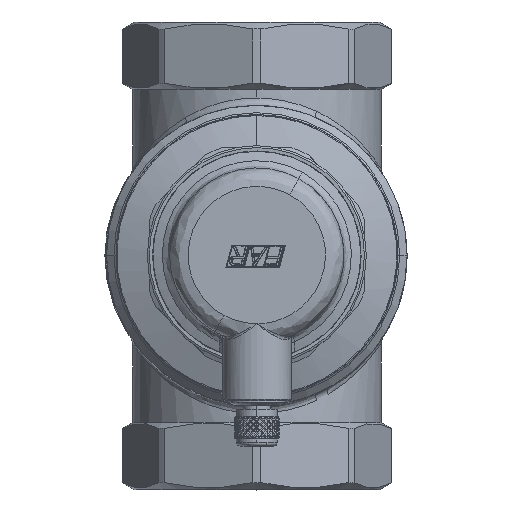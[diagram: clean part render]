
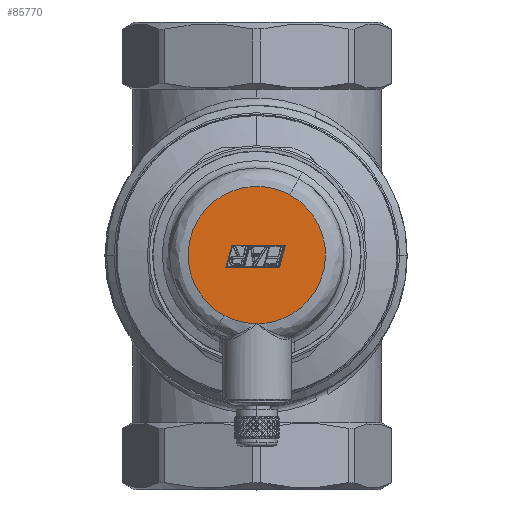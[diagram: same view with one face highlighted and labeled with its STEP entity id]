
A CAD part, top view. The second image highlights one B-rep face of the part: STEP entity #85770.
In plain terms, the highlighted planar face has unit normal (0, 0, 1) as drawn and (0, -1, 0) by its records, which use the part's own axes.
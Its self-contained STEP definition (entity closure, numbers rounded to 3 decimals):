
#4035 = LINE ( 'NONE', #55772, #92193 ) ;
#9769 = VECTOR ( 'NONE', #81435, 1000. ) ;
#9800 =( BOUNDED_CURVE ( )  B_SPLINE_CURVE ( 3, ( #73819, #47179, #89996, #38854 ),
 .UNSPECIFIED., .F., .F. ) 
 B_SPLINE_CURVE_WITH_KNOTS ( ( 4, 4 ),
 ( 0., 1. ),
 .UNSPECIFIED. ) 
 CURVE ( )  GEOMETRIC_REPRESENTATION_ITEM ( )  RATIONAL_B_SPLINE_CURVE ( ( 1., 0.979, 0.979, 1. ) ) 
 REPRESENTATION_ITEM ( '' )  );
#11123 = ORIENTED_EDGE ( 'NONE', *, *, #27832, .F. ) ;
#13145 = DIRECTION ( 'NONE',  ( 0., 1., 0. ) ) ;
#17283 =( BOUNDED_CURVE ( )  B_SPLINE_CURVE ( 3, ( #40316, #30887, #100363, #41970 ),
 .UNSPECIFIED., .F., .T. ) 
 B_SPLINE_CURVE_WITH_KNOTS ( ( 4, 4 ),
 ( 0., 1. ),
 .UNSPECIFIED. ) 
 CURVE ( )  GEOMETRIC_REPRESENTATION_ITEM ( )  RATIONAL_B_SPLINE_CURVE ( ( 1., 0.333, 0.333, 1. ) ) 
 REPRESENTATION_ITEM ( '' )  );
#21432 = AXIS2_PLACEMENT_3D ( 'NONE', #40384, #13145, #47069 ) ;
#22492 = CARTESIAN_POINT ( 'NONE',  ( -6.097, -20., 3.372 ) ) ;
#23463 = LINE ( 'NONE', #81854, #91898 ) ;
#27832 = EDGE_CURVE ( 'NONE', #54263, #84624, #23463, .T. ) ;
#29011 = VERTEX_POINT ( 'NONE', #48922 ) ;
#30887 = CARTESIAN_POINT ( 'NONE',  ( 41.34, -20., -1.503 ) ) ;
#35366 = EDGE_CURVE ( 'NONE', #100545, #65314, #17283, .T. ) ;
#36124 =( BOUNDED_CURVE ( )  B_SPLINE_CURVE ( 3, ( #62190, #44970, #44434, #96118 ),
 .UNSPECIFIED., .F., .F. ) 
 B_SPLINE_CURVE_WITH_KNOTS ( ( 4, 4 ),
 ( 0., 1. ),
 .UNSPECIFIED. ) 
 CURVE ( )  GEOMETRIC_REPRESENTATION_ITEM ( )  RATIONAL_B_SPLINE_CURVE ( ( 1., 0.498, 0.498, 1. ) ) 
 REPRESENTATION_ITEM ( '' )  );
#38854 = CARTESIAN_POINT ( 'NONE',  ( 8.869, -20., 16.235 ) ) ;
#39699 = VERTEX_POINT ( 'NONE', #44162 ) ;
#39809 = CARTESIAN_POINT ( 'NONE',  ( 6.741, -20., -2.64 ) ) ;
#40316 = CARTESIAN_POINT ( 'NONE',  ( 8.869, -20., 16.235 ) ) ;
#40384 = CARTESIAN_POINT ( 'NONE',  ( 0., -20., 0. ) ) ;
#41027 = CARTESIAN_POINT ( 'NONE',  ( -7.708, -20., -2.64 ) ) ;
#41970 = CARTESIAN_POINT ( 'NONE',  ( -8.869, -20., -16.235 ) ) ;
#44162 = CARTESIAN_POINT ( 'NONE',  ( 8.353, -20., 3.378 ) ) ;
#44434 = CARTESIAN_POINT ( 'NONE',  ( -23.983, -20., 18.5 ) ) ;
#44970 = CARTESIAN_POINT ( 'NONE',  ( -29.916, -20., -4.737 ) ) ;
#47069 = DIRECTION ( 'NONE',  ( 0., 0., 1. ) ) ;
#47179 = CARTESIAN_POINT ( 'NONE',  ( 3.116, -20., 18.5 ) ) ;
#48613 = LINE ( 'NONE', #22492, #9769 ) ;
#48922 = CARTESIAN_POINT ( 'NONE',  ( -6.097, -20., 3.372 ) ) ;
#50101 = EDGE_LOOP ( 'NONE', ( #84823, #68905, #59150, #11123 ) ) ;
#51659 = CARTESIAN_POINT ( 'NONE',  ( 0., -20., 18.5 ) ) ;
#53143 = EDGE_CURVE ( 'NONE', #39699, #29011, #68464, .T. ) ;
#54263 = VERTEX_POINT ( 'NONE', #41027 ) ;
#55430 = FACE_BOUND ( 'NONE', #50101, .T. ) ;
#55772 = CARTESIAN_POINT ( 'NONE',  ( 6.741, -20., -2.64 ) ) ;
#56294 = DIRECTION ( 'NONE',  ( 1., 0., 0. ) ) ;
#56803 = CARTESIAN_POINT ( 'NONE',  ( 8.869, -20., 16.235 ) ) ;
#59150 = ORIENTED_EDGE ( 'NONE', *, *, #62443, .F. ) ;
#62190 = CARTESIAN_POINT ( 'NONE',  ( -8.869, -20., -16.235 ) ) ;
#62443 = EDGE_CURVE ( 'NONE', #84624, #39699, #4035, .T. ) ;
#65314 = VERTEX_POINT ( 'NONE', #92627 ) ;
#68464 = LINE ( 'NONE', #86226, #93131 ) ;
#68905 = ORIENTED_EDGE ( 'NONE', *, *, #53143, .F. ) ;
#69003 = DIRECTION ( 'NONE',  ( -1., 0., 0. ) ) ;
#72853 = ORIENTED_EDGE ( 'NONE', *, *, #106632, .F. ) ;
#73819 = CARTESIAN_POINT ( 'NONE',  ( 0., -20., 18.5 ) ) ;
#76421 = ORIENTED_EDGE ( 'NONE', *, *, #35366, .F. ) ;
#81435 = DIRECTION ( 'NONE',  ( -0.259, 0., -0.966 ) ) ;
#81854 = CARTESIAN_POINT ( 'NONE',  ( 0., -20., -2.64 ) ) ;
#82457 = VERTEX_POINT ( 'NONE', #51659 ) ;
#82634 = PLANE ( 'NONE',  #21432 ) ;
#83765 = ORIENTED_EDGE ( 'NONE', *, *, #91585, .F. ) ;
#84624 = VERTEX_POINT ( 'NONE', #39809 ) ;
#84823 = ORIENTED_EDGE ( 'NONE', *, *, #106961, .F. ) ;
#85770 = ADVANCED_FACE ( 'NONE', ( #55430, #89340 ), #82634, .F. ) ;
#86226 = CARTESIAN_POINT ( 'NONE',  ( 8.353, -20., 3.378 ) ) ;
#89340 = FACE_OUTER_BOUND ( 'NONE', #95083, .T. ) ;
#89996 = CARTESIAN_POINT ( 'NONE',  ( 6.135, -20., 17.729 ) ) ;
#91585 = EDGE_CURVE ( 'NONE', #82457, #100545, #9800, .T. ) ;
#91898 = VECTOR ( 'NONE', #56294, 1000. ) ;
#92193 = VECTOR ( 'NONE', #97466, 1000. ) ;
#92627 = CARTESIAN_POINT ( 'NONE',  ( -8.869, -20., -16.235 ) ) ;
#93131 = VECTOR ( 'NONE', #69003, 1000. ) ;
#95083 = EDGE_LOOP ( 'NONE', ( #83765, #72853, #76421 ) ) ;
#96118 = CARTESIAN_POINT ( 'NONE',  ( 0., -20., 18.5 ) ) ;
#97466 = DIRECTION ( 'NONE',  ( 0.259, 0., 0.966 ) ) ;
#100363 = CARTESIAN_POINT ( 'NONE',  ( 23.601, -20., -33.974 ) ) ;
#100545 = VERTEX_POINT ( 'NONE', #56803 ) ;
#106632 = EDGE_CURVE ( 'NONE', #65314, #82457, #36124, .T. ) ;
#106961 = EDGE_CURVE ( 'NONE', #29011, #54263, #48613, .T. ) ;
